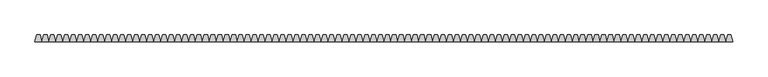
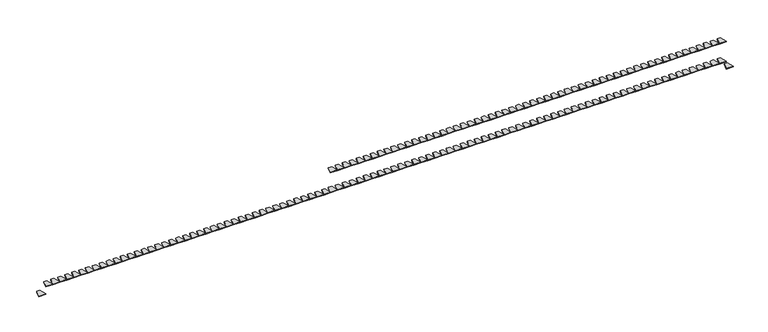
"""IFC4 building model written with IfcOpenShell, lengths in millimetres: duct fitting geometry, Частичная крышка шириной 40 мм - для кабель-канала DLP 65x195 - 2м - белый : 85мм."""

from ifc_helpers import new_model, si_unit, frame, origin, place, context, project, spatial, polyline, outline, extrude, source, transform, mapped, element, save


def duct_fitting_ad07ba2f(model_context):
    return source(origin(), model_context, "Body", "SweptSolid", [
        extrude(outline(polyline([(974.6410162, 20.0), (980.0, 0.0), (960.0, 0.0), (965.7349077, 20.0), (974.6410162, 20.0)])), frame((0.0, 0.0, -20.0), z_axis=(0.0, 0.0, 1.0), x_axis=(1.0, 0.0, 0.0)), (0.0, 0.0, 1.0), 2.0),
        extrude(outline(polyline([(954.6410162, 20.0), (960.0, 0.0), (940.0, 0.0), (945.7349077, 20.0), (954.6410162, 20.0)])), frame((0.0, 0.0, -20.0), z_axis=(0.0, 0.0, 1.0), x_axis=(1.0, 0.0, 0.0)), (0.0, 0.0, 1.0), 2.0),
        extrude(outline(polyline([(934.6410162, 20.0), (940.0, 0.0), (920.0, 0.0), (925.7349077, 20.0), (934.6410162, 20.0)])), frame((0.0, 0.0, -20.0), z_axis=(0.0, 0.0, 1.0), x_axis=(1.0, 0.0, 0.0)), (0.0, 0.0, 1.0), 2.0),
        extrude(outline(polyline([(914.6410162, 20.0), (920.0, 0.0), (900.0, 0.0), (905.7349077, 20.0), (914.6410162, 20.0)])), frame((0.0, 0.0, -20.0), z_axis=(0.0, 0.0, 1.0), x_axis=(1.0, 0.0, 0.0)), (0.0, 0.0, 1.0), 2.0),
        extrude(outline(polyline([(894.6410162, 20.0), (900.0, 0.0), (880.0, 0.0), (885.7349077, 20.0), (894.6410162, 20.0)])), frame((0.0, 0.0, -20.0), z_axis=(0.0, 0.0, 1.0), x_axis=(1.0, 0.0, 0.0)), (0.0, 0.0, 1.0), 2.0),
        extrude(outline(polyline([(874.6410162, 20.0), (880.0, 0.0), (860.0, 0.0), (865.7349077, 20.0), (874.6410162, 20.0)])), frame((0.0, 0.0, -20.0), z_axis=(0.0, 0.0, 1.0), x_axis=(1.0, 0.0, 0.0)), (0.0, 0.0, 1.0), 2.0),
        extrude(outline(polyline([(854.6410162, 20.0), (860.0, 0.0), (840.0, 0.0), (845.7349077, 20.0), (854.6410162, 20.0)])), frame((0.0, 0.0, -20.0), z_axis=(0.0, 0.0, 1.0), x_axis=(1.0, 0.0, 0.0)), (0.0, 0.0, 1.0), 2.0),
        extrude(outline(polyline([(834.6410162, 20.0), (840.0, 0.0), (820.0, 0.0), (825.7349077, 20.0), (834.6410162, 20.0)])), frame((0.0, 0.0, -20.0), z_axis=(0.0, 0.0, 1.0), x_axis=(1.0, 0.0, 0.0)), (0.0, 0.0, 1.0), 2.0),
        extrude(outline(polyline([(814.6410162, 20.0), (820.0, 0.0), (800.0, 0.0), (805.7349077, 20.0), (814.6410162, 20.0)])), frame((0.0, 0.0, -20.0), z_axis=(0.0, 0.0, 1.0), x_axis=(1.0, 0.0, 0.0)), (0.0, 0.0, 1.0), 2.0),
        extrude(outline(polyline([(794.6410162, 20.0), (800.0, 0.0), (780.0, 0.0), (785.7349077, 20.0), (794.6410162, 20.0)])), frame((0.0, 0.0, -20.0), z_axis=(0.0, 0.0, 1.0), x_axis=(1.0, 0.0, 0.0)), (0.0, 0.0, 1.0), 2.0),
        extrude(outline(polyline([(774.6410162, 20.0), (780.0, 0.0), (760.0, 0.0), (765.7349077, 20.0), (774.6410162, 20.0)])), frame((0.0, 0.0, -20.0), z_axis=(0.0, 0.0, 1.0), x_axis=(1.0, 0.0, 0.0)), (0.0, 0.0, 1.0), 2.0),
        extrude(outline(polyline([(754.6410162, 20.0), (760.0, 0.0), (740.0, 0.0), (745.7349077, 20.0), (754.6410162, 20.0)])), frame((0.0, 0.0, -20.0), z_axis=(0.0, 0.0, 1.0), x_axis=(1.0, 0.0, 0.0)), (0.0, 0.0, 1.0), 2.0),
        extrude(outline(polyline([(734.6410162, 20.0), (740.0, 0.0), (720.0, 0.0), (725.7349077, 20.0), (734.6410162, 20.0)])), frame((0.0, 0.0, -20.0), z_axis=(0.0, 0.0, 1.0), x_axis=(1.0, 0.0, 0.0)), (0.0, 0.0, 1.0), 2.0),
        extrude(outline(polyline([(714.6410162, 20.0), (720.0, 0.0), (700.0, 0.0), (705.7349077, 20.0), (714.6410162, 20.0)])), frame((0.0, 0.0, -20.0), z_axis=(0.0, 0.0, 1.0), x_axis=(1.0, 0.0, 0.0)), (0.0, 0.0, 1.0), 2.0),
        extrude(outline(polyline([(694.6410162, 20.0), (700.0, 0.0), (680.0, 0.0), (685.7349077, 20.0), (694.6410162, 20.0)])), frame((0.0, 0.0, -20.0), z_axis=(0.0, 0.0, 1.0), x_axis=(1.0, 0.0, 0.0)), (0.0, 0.0, 1.0), 2.0),
        extrude(outline(polyline([(674.6410162, 20.0), (680.0, 0.0), (660.0, 0.0), (665.7349077, 20.0), (674.6410162, 20.0)])), frame((0.0, 0.0, -20.0), z_axis=(0.0, 0.0, 1.0), x_axis=(1.0, 0.0, 0.0)), (0.0, 0.0, 1.0), 2.0),
        extrude(outline(polyline([(654.6410162, 20.0), (660.0, 0.0), (640.0, 0.0), (645.7349077, 20.0), (654.6410162, 20.0)])), frame((0.0, 0.0, -20.0), z_axis=(0.0, 0.0, 1.0), x_axis=(1.0, 0.0, 0.0)), (0.0, 0.0, 1.0), 2.0),
        extrude(outline(polyline([(634.6410162, 20.0), (640.0, 0.0), (620.0, 0.0), (625.7349077, 20.0), (634.6410162, 20.0)])), frame((0.0, 0.0, -20.0), z_axis=(0.0, 0.0, 1.0), x_axis=(1.0, 0.0, 0.0)), (0.0, 0.0, 1.0), 2.0),
        extrude(outline(polyline([(614.6410162, 20.0), (620.0, 0.0), (600.0, 0.0), (605.7349077, 20.0), (614.6410162, 20.0)])), frame((0.0, 0.0, -20.0), z_axis=(0.0, 0.0, 1.0), x_axis=(1.0, 0.0, 0.0)), (0.0, 0.0, 1.0), 2.0),
        extrude(outline(polyline([(594.6410162, 20.0), (600.0, 0.0), (580.0, 0.0), (585.7349077, 20.0), (594.6410162, 20.0)])), frame((0.0, 0.0, -20.0), z_axis=(0.0, 0.0, 1.0), x_axis=(1.0, 0.0, 0.0)), (0.0, 0.0, 1.0), 2.0),
        extrude(outline(polyline([(574.6410162, 20.0), (580.0, 0.0), (560.0, 0.0), (565.7349077, 20.0), (574.6410162, 20.0)])), frame((0.0, 0.0, -20.0), z_axis=(0.0, 0.0, 1.0), x_axis=(1.0, 0.0, 0.0)), (0.0, 0.0, 1.0), 2.0),
        extrude(outline(polyline([(554.6410162, 20.0), (560.0, 0.0), (540.0, 0.0), (545.7349077, 20.0), (554.6410162, 20.0)])), frame((0.0, 0.0, -20.0), z_axis=(0.0, 0.0, 1.0), x_axis=(1.0, 0.0, 0.0)), (0.0, 0.0, 1.0), 2.0),
        extrude(outline(polyline([(534.6410162, 20.0), (540.0, 0.0), (520.0, 0.0), (525.7349077, 20.0), (534.6410162, 20.0)])), frame((0.0, 0.0, -20.0), z_axis=(0.0, 0.0, 1.0), x_axis=(1.0, 0.0, 0.0)), (0.0, 0.0, 1.0), 2.0),
        extrude(outline(polyline([(514.6410162, 20.0), (520.0, 0.0), (500.0, 0.0), (505.7349077, 20.0), (514.6410162, 20.0)])), frame((0.0, 0.0, -20.0), z_axis=(0.0, 0.0, 1.0), x_axis=(1.0, 0.0, 0.0)), (0.0, 0.0, 1.0), 2.0),
        extrude(outline(polyline([(494.6410162, 20.0), (500.0, 0.0), (480.0, 0.0), (485.7349077, 20.0), (494.6410162, 20.0)])), frame((0.0, 0.0, -20.0), z_axis=(0.0, 0.0, 1.0), x_axis=(1.0, 0.0, 0.0)), (0.0, 0.0, 1.0), 2.0),
        extrude(outline(polyline([(474.6410162, 20.0), (480.0, 0.0), (460.0, 0.0), (465.7349077, 20.0), (474.6410162, 20.0)])), frame((0.0, 0.0, -20.0), z_axis=(0.0, 0.0, 1.0), x_axis=(1.0, 0.0, 0.0)), (0.0, 0.0, 1.0), 2.0),
        extrude(outline(polyline([(454.6410162, 20.0), (460.0, 0.0), (440.0, 0.0), (445.7349077, 20.0), (454.6410162, 20.0)])), frame((0.0, 0.0, -20.0), z_axis=(0.0, 0.0, 1.0), x_axis=(1.0, 0.0, 0.0)), (0.0, 0.0, 1.0), 2.0),
        extrude(outline(polyline([(434.6410162, 20.0), (440.0, 0.0), (420.0, 0.0), (425.7349077, 20.0), (434.6410162, 20.0)])), frame((0.0, 0.0, -20.0), z_axis=(0.0, 0.0, 1.0), x_axis=(1.0, 0.0, 0.0)), (0.0, 0.0, 1.0), 2.0),
        extrude(outline(polyline([(414.6410162, 20.0), (420.0, 0.0), (400.0, 0.0), (405.7349077, 20.0), (414.6410162, 20.0)])), frame((0.0, 0.0, -20.0), z_axis=(0.0, 0.0, 1.0), x_axis=(1.0, 0.0, 0.0)), (0.0, 0.0, 1.0), 2.0),
        extrude(outline(polyline([(394.6410162, 20.0), (400.0, 0.0), (380.0, 0.0), (385.7349077, 20.0), (394.6410162, 20.0)])), frame((0.0, 0.0, -20.0), z_axis=(0.0, 0.0, 1.0), x_axis=(1.0, 0.0, 0.0)), (0.0, 0.0, 1.0), 2.0),
        extrude(outline(polyline([(374.6410162, 20.0), (380.0, 0.0), (360.0, 0.0), (365.7349077, 20.0), (374.6410162, 20.0)])), frame((0.0, 0.0, -20.0), z_axis=(0.0, 0.0, 1.0), x_axis=(1.0, 0.0, 0.0)), (0.0, 0.0, 1.0), 2.0),
        extrude(outline(polyline([(354.6410162, 20.0), (360.0, 0.0), (340.0, 0.0), (345.7349077, 20.0), (354.6410162, 20.0)])), frame((0.0, 0.0, -20.0), z_axis=(0.0, 0.0, 1.0), x_axis=(1.0, 0.0, 0.0)), (0.0, 0.0, 1.0), 2.0),
        extrude(outline(polyline([(334.6410162, 20.0), (340.0, 0.0), (320.0, 0.0), (325.7349077, 20.0), (334.6410162, 20.0)])), frame((0.0, 0.0, -20.0), z_axis=(0.0, 0.0, 1.0), x_axis=(1.0, 0.0, 0.0)), (0.0, 0.0, 1.0), 2.0),
        extrude(outline(polyline([(314.6410162, 20.0), (320.0, 0.0), (300.0, 0.0), (305.7349077, 20.0), (314.6410162, 20.0)])), frame((0.0, 0.0, -20.0), z_axis=(0.0, 0.0, 1.0), x_axis=(1.0, 0.0, 0.0)), (0.0, 0.0, 1.0), 2.0),
        extrude(outline(polyline([(294.6410162, 20.0), (300.0, 0.0), (280.0, 0.0), (285.7349077, 20.0), (294.6410162, 20.0)])), frame((0.0, 0.0, -20.0), z_axis=(0.0, 0.0, 1.0), x_axis=(1.0, 0.0, 0.0)), (0.0, 0.0, 1.0), 2.0),
        extrude(outline(polyline([(274.6410162, 20.0), (280.0, 0.0), (260.0, 0.0), (265.7349077, 20.0), (274.6410162, 20.0)])), frame((0.0, 0.0, -20.0), z_axis=(0.0, 0.0, 1.0), x_axis=(1.0, 0.0, 0.0)), (0.0, 0.0, 1.0), 2.0),
        extrude(outline(polyline([(254.6410162, 20.0), (260.0, 0.0), (240.0, 0.0), (245.7349077, 20.0), (254.6410162, 20.0)])), frame((0.0, 0.0, -20.0), z_axis=(0.0, 0.0, 1.0), x_axis=(1.0, 0.0, 0.0)), (0.0, 0.0, 1.0), 2.0),
        extrude(outline(polyline([(234.6410162, 20.0), (240.0, 0.0), (220.0, 0.0), (225.7349077, 20.0), (234.6410162, 20.0)])), frame((0.0, 0.0, -20.0), z_axis=(0.0, 0.0, 1.0), x_axis=(1.0, 0.0, 0.0)), (0.0, 0.0, 1.0), 2.0),
        extrude(outline(polyline([(214.6410162, 20.0), (220.0, 0.0), (200.0, 0.0), (205.7349077, 20.0), (214.6410162, 20.0)])), frame((0.0, 0.0, -20.0), z_axis=(0.0, 0.0, 1.0), x_axis=(1.0, 0.0, 0.0)), (0.0, 0.0, 1.0), 2.0),
        extrude(outline(polyline([(194.6410162, 20.0), (200.0, 0.0), (180.0, 0.0), (185.7349077, 20.0), (194.6410162, 20.0)])), frame((0.0, 0.0, -20.0), z_axis=(0.0, 0.0, 1.0), x_axis=(1.0, 0.0, 0.0)), (0.0, 0.0, 1.0), 2.0),
        extrude(outline(polyline([(174.6410162, 20.0), (180.0, 0.0), (160.0, 0.0), (165.7349077, 20.0), (174.6410162, 20.0)])), frame((0.0, 0.0, -20.0), z_axis=(0.0, 0.0, 1.0), x_axis=(1.0, 0.0, 0.0)), (0.0, 0.0, 1.0), 2.0),
        extrude(outline(polyline([(154.6410162, 20.0), (160.0, 0.0), (140.0, 0.0), (145.7349077, 20.0), (154.6410162, 20.0)])), frame((0.0, 0.0, -20.0), z_axis=(0.0, 0.0, 1.0), x_axis=(1.0, 0.0, 0.0)), (0.0, 0.0, 1.0), 2.0),
        extrude(outline(polyline([(134.6410162, 20.0), (140.0, 0.0), (120.0, 0.0), (125.7349077, 20.0), (134.6410162, 20.0)])), frame((0.0, 0.0, -20.0), z_axis=(0.0, 0.0, 1.0), x_axis=(1.0, 0.0, 0.0)), (0.0, 0.0, 1.0), 2.0),
        extrude(outline(polyline([(114.6410162, 20.0), (120.0, 0.0), (100.0, 0.0), (105.7349077, 20.0), (114.6410162, 20.0)])), frame((0.0, 0.0, -20.0), z_axis=(0.0, 0.0, 1.0), x_axis=(1.0, 0.0, 0.0)), (0.0, 0.0, 1.0), 2.0),
        extrude(outline(polyline([(94.6410162, 20.0), (100.0, 0.0), (80.0, 0.0), (85.7349077, 20.0), (94.6410162, 20.0)])), frame((0.0, 0.0, -20.0), z_axis=(0.0, 0.0, 1.0), x_axis=(1.0, 0.0, 0.0)), (0.0, 0.0, 1.0), 2.0),
        extrude(outline(polyline([(74.6410162, 20.0), (80.0, 0.0), (60.0, 0.0), (65.7349077, 20.0), (74.6410162, 20.0)])), frame((0.0, 0.0, -20.0), z_axis=(0.0, 0.0, 1.0), x_axis=(1.0, 0.0, 0.0)), (0.0, 0.0, 1.0), 2.0),
        extrude(outline(polyline([(54.6410162, 20.0), (60.0, 0.0), (40.0, 0.0), (45.7349077, 20.0), (54.6410162, 20.0)])), frame((0.0, 0.0, -20.0), z_axis=(0.0, 0.0, 1.0), x_axis=(1.0, 0.0, 0.0)), (0.0, 0.0, 1.0), 2.0),
        extrude(outline(polyline([(34.6410162, 20.0), (40.0, 0.0), (20.0, 0.0), (25.7349077, 20.0), (34.6410162, 20.0)])), frame((0.0, 0.0, -20.0), z_axis=(0.0, 0.0, 1.0), x_axis=(1.0, 0.0, 0.0)), (0.0, 0.0, 1.0), 2.0),
        extrude(outline(polyline([(14.6410162, 20.0), (20.0, 0.0), (0.0, 0.0), (5.7349077, 20.0), (14.6410162, 20.0)])), frame((0.0, 0.0, -20.0), z_axis=(0.0, 0.0, 1.0), x_axis=(1.0, 0.0, 0.0)), (0.0, 0.0, 1.0), 2.0),
        extrude(outline(polyline([(-5.3589838, 20.0), (0.0, 0.0), (-20.0, 0.0), (-14.2650923, 20.0), (-5.3589838, 20.0)])), frame((0.0, 0.0, -20.0), z_axis=(0.0, 0.0, 1.0), x_axis=(1.0, 0.0, 0.0)), (0.0, 0.0, 1.0), 2.0),
        extrude(outline(polyline([(-25.3589838, 20.0), (-20.0, 0.0), (-40.0, 0.0), (-34.2650923, 20.0), (-25.3589838, 20.0)])), frame((0.0, 0.0, -20.0), z_axis=(0.0, 0.0, 1.0), x_axis=(1.0, 0.0, 0.0)), (0.0, 0.0, 1.0), 2.0),
        extrude(outline(polyline([(-45.3589838, 20.0), (-40.0, 0.0), (-60.0, 0.0), (-54.2650923, 20.0), (-45.3589838, 20.0)])), frame((0.0, 0.0, -20.0), z_axis=(0.0, 0.0, 1.0), x_axis=(1.0, 0.0, 0.0)), (0.0, 0.0, 1.0), 2.0),
        extrude(outline(polyline([(-65.3589838, 20.0), (-60.0, 0.0), (-80.0, 0.0), (-74.2650923, 20.0), (-65.3589838, 20.0)])), frame((0.0, 0.0, -20.0), z_axis=(0.0, 0.0, 1.0), x_axis=(1.0, 0.0, 0.0)), (0.0, 0.0, 1.0), 2.0),
        extrude(outline(polyline([(-85.3589838, 20.0), (-80.0, 0.0), (-100.0, 0.0), (-94.2650923, 20.0), (-85.3589838, 20.0)])), frame((0.0, 0.0, -20.0), z_axis=(0.0, 0.0, 1.0), x_axis=(1.0, 0.0, 0.0)), (0.0, 0.0, 1.0), 2.0),
        extrude(outline(polyline([(-105.3589838, 20.0), (-100.0, 0.0), (-120.0, 0.0), (-114.2650923, 20.0), (-105.3589838, 20.0)])), frame((0.0, 0.0, -20.0), z_axis=(0.0, 0.0, 1.0), x_axis=(1.0, 0.0, 0.0)), (0.0, 0.0, 1.0), 2.0),
        extrude(outline(polyline([(-125.3589838, 20.0), (-120.0, 0.0), (-140.0, 0.0), (-134.2650923, 20.0), (-125.3589838, 20.0)])), frame((0.0, 0.0, -20.0), z_axis=(0.0, 0.0, 1.0), x_axis=(1.0, 0.0, 0.0)), (0.0, 0.0, 1.0), 2.0),
        extrude(outline(polyline([(-145.3589838, 20.0), (-140.0, 0.0), (-160.0, 0.0), (-154.2650923, 20.0), (-145.3589838, 20.0)])), frame((0.0, 0.0, -20.0), z_axis=(0.0, 0.0, 1.0), x_axis=(1.0, 0.0, 0.0)), (0.0, 0.0, 1.0), 2.0),
        extrude(outline(polyline([(-165.3589838, 20.0), (-160.0, 0.0), (-180.0, 0.0), (-174.2650923, 20.0), (-165.3589838, 20.0)])), frame((0.0, 0.0, -20.0), z_axis=(0.0, 0.0, 1.0), x_axis=(1.0, 0.0, 0.0)), (0.0, 0.0, 1.0), 2.0),
        extrude(outline(polyline([(-185.3589838, 20.0), (-180.0, 0.0), (-200.0, 0.0), (-194.2650923, 20.0), (-185.3589838, 20.0)])), frame((0.0, 0.0, -20.0), z_axis=(0.0, 0.0, 1.0), x_axis=(1.0, 0.0, 0.0)), (0.0, 0.0, 1.0), 2.0),
        extrude(outline(polyline([(-205.3589838, 20.0), (-200.0, 0.0), (-220.0, 0.0), (-214.2650923, 20.0), (-205.3589838, 20.0)])), frame((0.0, 0.0, -20.0), z_axis=(0.0, 0.0, 1.0), x_axis=(1.0, 0.0, 0.0)), (0.0, 0.0, 1.0), 2.0),
        extrude(outline(polyline([(-225.3589838, 20.0), (-220.0, 0.0), (-240.0, 0.0), (-234.2650923, 20.0), (-225.3589838, 20.0)])), frame((0.0, 0.0, -20.0), z_axis=(0.0, 0.0, 1.0), x_axis=(1.0, 0.0, 0.0)), (0.0, 0.0, 1.0), 2.0),
        extrude(outline(polyline([(-245.3589838, 20.0), (-240.0, 0.0), (-260.0, 0.0), (-254.2650923, 20.0), (-245.3589838, 20.0)])), frame((0.0, 0.0, -20.0), z_axis=(0.0, 0.0, 1.0), x_axis=(1.0, 0.0, 0.0)), (0.0, 0.0, 1.0), 2.0),
        extrude(outline(polyline([(-265.3589838, 20.0), (-260.0, 0.0), (-280.0, 0.0), (-274.2650923, 20.0), (-265.3589838, 20.0)])), frame((0.0, 0.0, -20.0), z_axis=(0.0, 0.0, 1.0), x_axis=(1.0, 0.0, 0.0)), (0.0, 0.0, 1.0), 2.0),
        extrude(outline(polyline([(-285.3589838, 20.0), (-280.0, 0.0), (-300.0, 0.0), (-294.2650923, 20.0), (-285.3589838, 20.0)])), frame((0.0, 0.0, -20.0), z_axis=(0.0, 0.0, 1.0), x_axis=(1.0, 0.0, 0.0)), (0.0, 0.0, 1.0), 2.0),
        extrude(outline(polyline([(-305.3589838, 20.0), (-300.0, 0.0), (-320.0, 0.0), (-314.2650923, 20.0), (-305.3589838, 20.0)])), frame((0.0, 0.0, -20.0), z_axis=(0.0, 0.0, 1.0), x_axis=(1.0, 0.0, 0.0)), (0.0, 0.0, 1.0), 2.0),
        extrude(outline(polyline([(-325.3589838, 20.0), (-320.0, 0.0), (-340.0, 0.0), (-334.2650923, 20.0), (-325.3589838, 20.0)])), frame((0.0, 0.0, -20.0), z_axis=(0.0, 0.0, 1.0), x_axis=(1.0, 0.0, 0.0)), (0.0, 0.0, 1.0), 2.0),
        extrude(outline(polyline([(-345.3589838, 20.0), (-340.0, 0.0), (-360.0, 0.0), (-354.2650923, 20.0), (-345.3589838, 20.0)])), frame((0.0, 0.0, -20.0), z_axis=(0.0, 0.0, 1.0), x_axis=(1.0, 0.0, 0.0)), (0.0, 0.0, 1.0), 2.0),
        extrude(outline(polyline([(-365.3589838, 20.0), (-360.0, 0.0), (-380.0, 0.0), (-374.2650923, 20.0), (-365.3589838, 20.0)])), frame((0.0, 0.0, -20.0), z_axis=(0.0, 0.0, 1.0), x_axis=(1.0, 0.0, 0.0)), (0.0, 0.0, 1.0), 2.0),
        extrude(outline(polyline([(-385.3589838, 20.0), (-380.0, 0.0), (-400.0, 0.0), (-394.2650923, 20.0), (-385.3589838, 20.0)])), frame((0.0, 0.0, -20.0), z_axis=(0.0, 0.0, 1.0), x_axis=(1.0, 0.0, 0.0)), (0.0, 0.0, 1.0), 2.0),
        extrude(outline(polyline([(-405.3589838, 20.0), (-400.0, 0.0), (-420.0, 0.0), (-414.2650923, 20.0), (-405.3589838, 20.0)])), frame((0.0, 0.0, -20.0), z_axis=(0.0, 0.0, 1.0), x_axis=(1.0, 0.0, 0.0)), (0.0, 0.0, 1.0), 2.0),
        extrude(outline(polyline([(-425.3589838, 20.0), (-420.0, 0.0), (-440.0, 0.0), (-434.2650923, 20.0), (-425.3589838, 20.0)])), frame((0.0, 0.0, -20.0), z_axis=(0.0, 0.0, 1.0), x_axis=(1.0, 0.0, 0.0)), (0.0, 0.0, 1.0), 2.0),
        extrude(outline(polyline([(-445.3589838, 20.0), (-440.0, 0.0), (-460.0, 0.0), (-454.2650923, 20.0), (-445.3589838, 20.0)])), frame((0.0, 0.0, -20.0), z_axis=(0.0, 0.0, 1.0), x_axis=(1.0, 0.0, 0.0)), (0.0, 0.0, 1.0), 2.0),
        extrude(outline(polyline([(-465.3589838, 20.0), (-460.0, 0.0), (-480.0, 0.0), (-474.2650923, 20.0), (-465.3589838, 20.0)])), frame((0.0, 0.0, -20.0), z_axis=(0.0, 0.0, 1.0), x_axis=(1.0, 0.0, 0.0)), (0.0, 0.0, 1.0), 2.0),
        extrude(outline(polyline([(-485.3589838, 20.0), (-480.0, 0.0), (-500.0, 0.0), (-494.2650923, 20.0), (-485.3589838, 20.0)])), frame((0.0, 0.0, -20.0), z_axis=(0.0, 0.0, 1.0), x_axis=(1.0, 0.0, 0.0)), (0.0, 0.0, 1.0), 2.0),
        extrude(outline(polyline([(-505.3589838, 20.0), (-500.0, 0.0), (-520.0, 0.0), (-514.2650923, 20.0), (-505.3589838, 20.0)])), frame((0.0, 0.0, -20.0), z_axis=(0.0, 0.0, 1.0), x_axis=(1.0, 0.0, 0.0)), (0.0, 0.0, 1.0), 2.0),
        extrude(outline(polyline([(-525.3589838, 20.0), (-520.0, 0.0), (-540.0, 0.0), (-534.2650923, 20.0), (-525.3589838, 20.0)])), frame((0.0, 0.0, -20.0), z_axis=(0.0, 0.0, 1.0), x_axis=(1.0, 0.0, 0.0)), (0.0, 0.0, 1.0), 2.0),
        extrude(outline(polyline([(-545.3589838, 20.0), (-540.0, 0.0), (-560.0, 0.0), (-554.2650923, 20.0), (-545.3589838, 20.0)])), frame((0.0, 0.0, -20.0), z_axis=(0.0, 0.0, 1.0), x_axis=(1.0, 0.0, 0.0)), (0.0, 0.0, 1.0), 2.0),
        extrude(outline(polyline([(-565.3589838, 20.0), (-560.0, 0.0), (-580.0, 0.0), (-574.2650923, 20.0), (-565.3589838, 20.0)])), frame((0.0, 0.0, -20.0), z_axis=(0.0, 0.0, 1.0), x_axis=(1.0, 0.0, 0.0)), (0.0, 0.0, 1.0), 2.0),
        extrude(outline(polyline([(-585.3589838, 20.0), (-580.0, 0.0), (-600.0, 0.0), (-594.2650923, 20.0), (-585.3589838, 20.0)])), frame((0.0, 0.0, -20.0), z_axis=(0.0, 0.0, 1.0), x_axis=(1.0, 0.0, 0.0)), (0.0, 0.0, 1.0), 2.0),
        extrude(outline(polyline([(-605.3589838, 20.0), (-600.0, 0.0), (-620.0, 0.0), (-614.2650923, 20.0), (-605.3589838, 20.0)])), frame((0.0, 0.0, -20.0), z_axis=(0.0, 0.0, 1.0), x_axis=(1.0, 0.0, 0.0)), (0.0, 0.0, 1.0), 2.0),
        extrude(outline(polyline([(-625.3589838, 20.0), (-620.0, 0.0), (-640.0, 0.0), (-634.2650923, 20.0), (-625.3589838, 20.0)])), frame((0.0, 0.0, -20.0), z_axis=(0.0, 0.0, 1.0), x_axis=(1.0, 0.0, 0.0)), (0.0, 0.0, 1.0), 2.0),
        extrude(outline(polyline([(-645.3589838, 20.0), (-640.0, 0.0), (-660.0, 0.0), (-654.2650923, 20.0), (-645.3589838, 20.0)])), frame((0.0, 0.0, -20.0), z_axis=(0.0, 0.0, 1.0), x_axis=(1.0, 0.0, 0.0)), (0.0, 0.0, 1.0), 2.0),
        extrude(outline(polyline([(-665.3589838, 20.0), (-660.0, 0.0), (-680.0, 0.0), (-674.2650923, 20.0), (-665.3589838, 20.0)])), frame((0.0, 0.0, -20.0), z_axis=(0.0, 0.0, 1.0), x_axis=(1.0, 0.0, 0.0)), (0.0, 0.0, 1.0), 2.0),
        extrude(outline(polyline([(-685.3589838, 20.0), (-680.0, 0.0), (-700.0, 0.0), (-694.2650923, 20.0), (-685.3589838, 20.0)])), frame((0.0, 0.0, -20.0), z_axis=(0.0, 0.0, 1.0), x_axis=(1.0, 0.0, 0.0)), (0.0, 0.0, 1.0), 2.0),
        extrude(outline(polyline([(-705.3589838, 20.0), (-700.0, 0.0), (-720.0, 0.0), (-714.2650923, 20.0), (-705.3589838, 20.0)])), frame((0.0, 0.0, -20.0), z_axis=(0.0, 0.0, 1.0), x_axis=(1.0, 0.0, 0.0)), (0.0, 0.0, 1.0), 2.0),
        extrude(outline(polyline([(-725.3589838, 20.0), (-720.0, 0.0), (-740.0, 0.0), (-734.2650923, 20.0), (-725.3589838, 20.0)])), frame((0.0, 0.0, -20.0), z_axis=(0.0, 0.0, 1.0), x_axis=(1.0, 0.0, 0.0)), (0.0, 0.0, 1.0), 2.0),
        extrude(outline(polyline([(-745.3589838, 20.0), (-740.0, 0.0), (-760.0, 0.0), (-754.2650923, 20.0), (-745.3589838, 20.0)])), frame((0.0, 0.0, -20.0), z_axis=(0.0, 0.0, 1.0), x_axis=(1.0, 0.0, 0.0)), (0.0, 0.0, 1.0), 2.0),
        extrude(outline(polyline([(-765.3589838, 20.0), (-760.0, 0.0), (-780.0, 0.0), (-774.2650923, 20.0), (-765.3589838, 20.0)])), frame((0.0, 0.0, -20.0), z_axis=(0.0, 0.0, 1.0), x_axis=(1.0, 0.0, 0.0)), (0.0, 0.0, 1.0), 2.0),
        extrude(outline(polyline([(-785.3589838, 20.0), (-780.0, 0.0), (-800.0, 0.0), (-794.2650923, 20.0), (-785.3589838, 20.0)])), frame((0.0, 0.0, -20.0), z_axis=(0.0, 0.0, 1.0), x_axis=(1.0, 0.0, 0.0)), (0.0, 0.0, 1.0), 2.0),
        extrude(outline(polyline([(-805.3589838, 20.0), (-800.0, 0.0), (-820.0, 0.0), (-814.2650923, 20.0), (-805.3589838, 20.0)])), frame((0.0, 0.0, -20.0), z_axis=(0.0, 0.0, 1.0), x_axis=(1.0, 0.0, 0.0)), (0.0, 0.0, 1.0), 2.0),
        extrude(outline(polyline([(-825.3589838, 20.0), (-820.0, 0.0), (-840.0, 0.0), (-834.2650923, 20.0), (-825.3589838, 20.0)])), frame((0.0, 0.0, -20.0), z_axis=(0.0, 0.0, 1.0), x_axis=(1.0, 0.0, 0.0)), (0.0, 0.0, 1.0), 2.0),
        extrude(outline(polyline([(-845.3589838, 20.0), (-840.0, 0.0), (-860.0, 0.0), (-854.2650923, 20.0), (-845.3589838, 20.0)])), frame((0.0, 0.0, -20.0), z_axis=(0.0, 0.0, 1.0), x_axis=(1.0, 0.0, 0.0)), (0.0, 0.0, 1.0), 2.0),
        extrude(outline(polyline([(-865.3589838, 20.0), (-860.0, 0.0), (-880.0, 0.0), (-874.2650923, 20.0), (-865.3589838, 20.0)])), frame((0.0, 0.0, -20.0), z_axis=(0.0, 0.0, 1.0), x_axis=(1.0, 0.0, 0.0)), (0.0, 0.0, 1.0), 2.0),
        extrude(outline(polyline([(-885.3589838, 20.0), (-880.0, 0.0), (-900.0, 0.0), (-894.2650923, 20.0), (-885.3589838, 20.0)])), frame((0.0, 0.0, -20.0), z_axis=(0.0, 0.0, 1.0), x_axis=(1.0, 0.0, 0.0)), (0.0, 0.0, 1.0), 2.0),
        extrude(outline(polyline([(-905.3589838, 20.0), (-900.0, 0.0), (-920.0, 0.0), (-914.2650923, 20.0), (-905.3589838, 20.0)])), frame((0.0, 0.0, -20.0), z_axis=(0.0, 0.0, 1.0), x_axis=(1.0, 0.0, 0.0)), (0.0, 0.0, 1.0), 2.0),
        extrude(outline(polyline([(-925.3589838, 20.0), (-920.0, 0.0), (-940.0, 0.0), (-934.2650923, 20.0), (-925.3589838, 20.0)])), frame((0.0, 0.0, -20.0), z_axis=(0.0, 0.0, 1.0), x_axis=(1.0, 0.0, 0.0)), (0.0, 0.0, 1.0), 2.0),
        extrude(outline(polyline([(-945.3589838, 20.0), (-940.0, 0.0), (-960.0, 0.0), (-954.2650923, 20.0), (-945.3589838, 20.0)])), frame((0.0, 0.0, -20.0), z_axis=(0.0, 0.0, 1.0), x_axis=(1.0, 0.0, 0.0)), (0.0, 0.0, 1.0), 2.0),
        extrude(outline(polyline([(-965.3589838, 20.0), (-960.0, 0.0), (-980.0, 0.0), (-974.2650923, 20.0), (-965.3589838, 20.0)])), frame((0.0, 0.0, -20.0), z_axis=(0.0, 0.0, 1.0), x_axis=(1.0, 0.0, 0.0)), (0.0, 0.0, 1.0), 2.0),
        extrude(outline(polyline([(994.6410162, 20.0), (1000.0, 0.0), (980.0, 0.0), (985.7349077, 20.0), (994.6410162, 20.0)])), frame((0.0, 0.0, -42.5), z_axis=(0.0, 0.0, 1.0), x_axis=(1.0, 0.0, 0.0)), (0.0, 0.0, 1.0), 2.0),
        extrude(outline(polyline([(-985.3589838, 20.0), (-980.0, 0.0), (-1000.0, 0.0), (-994.2650923, 20.0), (-985.3589838, 20.0)])), frame((0.0, 0.0, -42.5), z_axis=(0.0, 0.0, 1.0), x_axis=(1.0, 0.0, 0.0)), (0.0, 0.0, 1.0), 2.0),
        extrude(outline(polyline([(974.6410162, 20.0), (980.0, 0.0), (960.0, 0.0), (965.7349077, 20.0), (974.6410162, 20.0)])), frame((0.0, 0.0, 40.5), z_axis=(0.0, 0.0, 1.0), x_axis=(1.0, 0.0, 0.0)), (0.0, 0.0, 1.0), 2.0),
        extrude(outline(polyline([(954.6410162, 20.0), (960.0, 0.0), (940.0, 0.0), (945.7349077, 20.0), (954.6410162, 20.0)])), frame((0.0, 0.0, 40.5), z_axis=(0.0, 0.0, 1.0), x_axis=(1.0, 0.0, 0.0)), (0.0, 0.0, 1.0), 2.0),
        extrude(outline(polyline([(934.6410162, 20.0), (940.0, 0.0), (920.0, 0.0), (925.7349077, 20.0), (934.6410162, 20.0)])), frame((0.0, 0.0, 40.5), z_axis=(0.0, 0.0, 1.0), x_axis=(1.0, 0.0, 0.0)), (0.0, 0.0, 1.0), 2.0),
        extrude(outline(polyline([(914.6410162, 20.0), (920.0, 0.0), (900.0, 0.0), (905.7349077, 20.0), (914.6410162, 20.0)])), frame((0.0, 0.0, 40.5), z_axis=(0.0, 0.0, 1.0), x_axis=(1.0, 0.0, 0.0)), (0.0, 0.0, 1.0), 2.0),
        extrude(outline(polyline([(894.6410162, 20.0), (900.0, 0.0), (880.0, 0.0), (885.7349077, 20.0), (894.6410162, 20.0)])), frame((0.0, 0.0, 40.5), z_axis=(0.0, 0.0, 1.0), x_axis=(1.0, 0.0, 0.0)), (0.0, 0.0, 1.0), 2.0),
        extrude(outline(polyline([(874.6410162, 20.0), (880.0, 0.0), (860.0, 0.0), (865.7349077, 20.0), (874.6410162, 20.0)])), frame((0.0, 0.0, 40.5), z_axis=(0.0, 0.0, 1.0), x_axis=(1.0, 0.0, 0.0)), (0.0, 0.0, 1.0), 2.0),
        extrude(outline(polyline([(854.6410162, 20.0), (860.0, 0.0), (840.0, 0.0), (845.7349077, 20.0), (854.6410162, 20.0)])), frame((0.0, 0.0, 40.5), z_axis=(0.0, 0.0, 1.0), x_axis=(1.0, 0.0, 0.0)), (0.0, 0.0, 1.0), 2.0),
        extrude(outline(polyline([(834.6410162, 20.0), (840.0, 0.0), (820.0, 0.0), (825.7349077, 20.0), (834.6410162, 20.0)])), frame((0.0, 0.0, 40.5), z_axis=(0.0, 0.0, 1.0), x_axis=(1.0, 0.0, 0.0)), (0.0, 0.0, 1.0), 2.0),
        extrude(outline(polyline([(814.6410162, 20.0), (820.0, 0.0), (800.0, 0.0), (805.7349077, 20.0), (814.6410162, 20.0)])), frame((0.0, 0.0, 40.5), z_axis=(0.0, 0.0, 1.0), x_axis=(1.0, 0.0, 0.0)), (0.0, 0.0, 1.0), 2.0),
        extrude(outline(polyline([(794.6410162, 20.0), (800.0, 0.0), (780.0, 0.0), (785.7349077, 20.0), (794.6410162, 20.0)])), frame((0.0, 0.0, 40.5), z_axis=(0.0, 0.0, 1.0), x_axis=(1.0, 0.0, 0.0)), (0.0, 0.0, 1.0), 2.0),
        extrude(outline(polyline([(774.6410162, 20.0), (780.0, 0.0), (760.0, 0.0), (765.7349077, 20.0), (774.6410162, 20.0)])), frame((0.0, 0.0, 40.5), z_axis=(0.0, 0.0, 1.0), x_axis=(1.0, 0.0, 0.0)), (0.0, 0.0, 1.0), 2.0),
        extrude(outline(polyline([(754.6410162, 20.0), (760.0, 0.0), (740.0, 0.0), (745.7349077, 20.0), (754.6410162, 20.0)])), frame((0.0, 0.0, 40.5), z_axis=(0.0, 0.0, 1.0), x_axis=(1.0, 0.0, 0.0)), (0.0, 0.0, 1.0), 2.0),
        extrude(outline(polyline([(734.6410162, 20.0), (740.0, 0.0), (720.0, 0.0), (725.7349077, 20.0), (734.6410162, 20.0)])), frame((0.0, 0.0, 40.5), z_axis=(0.0, 0.0, 1.0), x_axis=(1.0, 0.0, 0.0)), (0.0, 0.0, 1.0), 2.0),
        extrude(outline(polyline([(714.6410162, 20.0), (720.0, 0.0), (700.0, 0.0), (705.7349077, 20.0), (714.6410162, 20.0)])), frame((0.0, 0.0, 40.5), z_axis=(0.0, 0.0, 1.0), x_axis=(1.0, 0.0, 0.0)), (0.0, 0.0, 1.0), 2.0),
        extrude(outline(polyline([(694.6410162, 20.0), (700.0, 0.0), (680.0, 0.0), (685.7349077, 20.0), (694.6410162, 20.0)])), frame((0.0, 0.0, 40.5), z_axis=(0.0, 0.0, 1.0), x_axis=(1.0, 0.0, 0.0)), (0.0, 0.0, 1.0), 2.0),
        extrude(outline(polyline([(674.6410162, 20.0), (680.0, 0.0), (660.0, 0.0), (665.7349077, 20.0), (674.6410162, 20.0)])), frame((0.0, 0.0, 40.5), z_axis=(0.0, 0.0, 1.0), x_axis=(1.0, 0.0, 0.0)), (0.0, 0.0, 1.0), 2.0),
        extrude(outline(polyline([(654.6410162, 20.0), (660.0, 0.0), (640.0, 0.0), (645.7349077, 20.0), (654.6410162, 20.0)])), frame((0.0, 0.0, 40.5), z_axis=(0.0, 0.0, 1.0), x_axis=(1.0, 0.0, 0.0)), (0.0, 0.0, 1.0), 2.0),
        extrude(outline(polyline([(634.6410162, 20.0), (640.0, 0.0), (620.0, 0.0), (625.7349077, 20.0), (634.6410162, 20.0)])), frame((0.0, 0.0, 40.5), z_axis=(0.0, 0.0, 1.0), x_axis=(1.0, 0.0, 0.0)), (0.0, 0.0, 1.0), 2.0),
        extrude(outline(polyline([(614.6410162, 20.0), (620.0, 0.0), (600.0, 0.0), (605.7349077, 20.0), (614.6410162, 20.0)])), frame((0.0, 0.0, 40.5), z_axis=(0.0, 0.0, 1.0), x_axis=(1.0, 0.0, 0.0)), (0.0, 0.0, 1.0), 2.0),
        extrude(outline(polyline([(594.6410162, 20.0), (600.0, 0.0), (580.0, 0.0), (585.7349077, 20.0), (594.6410162, 20.0)])), frame((0.0, 0.0, 40.5), z_axis=(0.0, 0.0, 1.0), x_axis=(1.0, 0.0, 0.0)), (0.0, 0.0, 1.0), 2.0),
        extrude(outline(polyline([(574.6410162, 20.0), (580.0, 0.0), (560.0, 0.0), (565.7349077, 20.0), (574.6410162, 20.0)])), frame((0.0, 0.0, 40.5), z_axis=(0.0, 0.0, 1.0), x_axis=(1.0, 0.0, 0.0)), (0.0, 0.0, 1.0), 2.0),
        extrude(outline(polyline([(554.6410162, 20.0), (560.0, 0.0), (540.0, 0.0), (545.7349077, 20.0), (554.6410162, 20.0)])), frame((0.0, 0.0, 40.5), z_axis=(0.0, 0.0, 1.0), x_axis=(1.0, 0.0, 0.0)), (0.0, 0.0, 1.0), 2.0),
        extrude(outline(polyline([(534.6410162, 20.0), (540.0, 0.0), (520.0, 0.0), (525.7349077, 20.0), (534.6410162, 20.0)])), frame((0.0, 0.0, 40.5), z_axis=(0.0, 0.0, 1.0), x_axis=(1.0, 0.0, 0.0)), (0.0, 0.0, 1.0), 2.0),
        extrude(outline(polyline([(514.6410162, 20.0), (520.0, 0.0), (500.0, 0.0), (505.7349077, 20.0), (514.6410162, 20.0)])), frame((0.0, 0.0, 40.5), z_axis=(0.0, 0.0, 1.0), x_axis=(1.0, 0.0, 0.0)), (0.0, 0.0, 1.0), 2.0),
        extrude(outline(polyline([(494.6410162, 20.0), (500.0, 0.0), (480.0, 0.0), (485.7349077, 20.0), (494.6410162, 20.0)])), frame((0.0, 0.0, 40.5), z_axis=(0.0, 0.0, 1.0), x_axis=(1.0, 0.0, 0.0)), (0.0, 0.0, 1.0), 2.0),
        extrude(outline(polyline([(474.6410162, 20.0), (480.0, 0.0), (460.0, 0.0), (465.7349077, 20.0), (474.6410162, 20.0)])), frame((0.0, 0.0, 40.5), z_axis=(0.0, 0.0, 1.0), x_axis=(1.0, 0.0, 0.0)), (0.0, 0.0, 1.0), 2.0),
        extrude(outline(polyline([(454.6410162, 20.0), (460.0, 0.0), (440.0, 0.0), (445.7349077, 20.0), (454.6410162, 20.0)])), frame((0.0, 0.0, 40.5), z_axis=(0.0, 0.0, 1.0), x_axis=(1.0, 0.0, 0.0)), (0.0, 0.0, 1.0), 2.0),
        extrude(outline(polyline([(434.6410162, 20.0), (440.0, 0.0), (420.0, 0.0), (425.7349077, 20.0), (434.6410162, 20.0)])), frame((0.0, 0.0, 40.5), z_axis=(0.0, 0.0, 1.0), x_axis=(1.0, 0.0, 0.0)), (0.0, 0.0, 1.0), 2.0),
        extrude(outline(polyline([(414.6410162, 20.0), (420.0, 0.0), (400.0, 0.0), (405.7349077, 20.0), (414.6410162, 20.0)])), frame((0.0, 0.0, 40.5), z_axis=(0.0, 0.0, 1.0), x_axis=(1.0, 0.0, 0.0)), (0.0, 0.0, 1.0), 2.0),
        extrude(outline(polyline([(394.6410162, 20.0), (400.0, 0.0), (380.0, 0.0), (385.7349077, 20.0), (394.6410162, 20.0)])), frame((0.0, 0.0, 40.5), z_axis=(0.0, 0.0, 1.0), x_axis=(1.0, 0.0, 0.0)), (0.0, 0.0, 1.0), 2.0),
        extrude(outline(polyline([(374.6410162, 20.0), (380.0, 0.0), (360.0, 0.0), (365.7349077, 20.0), (374.6410162, 20.0)])), frame((0.0, 0.0, 40.5), z_axis=(0.0, 0.0, 1.0), x_axis=(1.0, 0.0, 0.0)), (0.0, 0.0, 1.0), 2.0),
        extrude(outline(polyline([(354.6410162, 20.0), (360.0, 0.0), (340.0, 0.0), (345.7349077, 20.0), (354.6410162, 20.0)])), frame((0.0, 0.0, 40.5), z_axis=(0.0, 0.0, 1.0), x_axis=(1.0, 0.0, 0.0)), (0.0, 0.0, 1.0), 2.0),
        extrude(outline(polyline([(334.6410162, 20.0), (340.0, 0.0), (320.0, 0.0), (325.7349077, 20.0), (334.6410162, 20.0)])), frame((0.0, 0.0, 40.5), z_axis=(0.0, 0.0, 1.0), x_axis=(1.0, 0.0, 0.0)), (0.0, 0.0, 1.0), 2.0),
        extrude(outline(polyline([(314.6410162, 20.0), (320.0, 0.0), (300.0, 0.0), (305.7349077, 20.0), (314.6410162, 20.0)])), frame((0.0, 0.0, 40.5), z_axis=(0.0, 0.0, 1.0), x_axis=(1.0, 0.0, 0.0)), (0.0, 0.0, 1.0), 2.0),
        extrude(outline(polyline([(294.6410162, 20.0), (300.0, 0.0), (280.0, 0.0), (285.7349077, 20.0), (294.6410162, 20.0)])), frame((0.0, 0.0, 40.5), z_axis=(0.0, 0.0, 1.0), x_axis=(1.0, 0.0, 0.0)), (0.0, 0.0, 1.0), 2.0),
        extrude(outline(polyline([(274.6410162, 20.0), (280.0, 0.0), (260.0, 0.0), (265.7349077, 20.0), (274.6410162, 20.0)])), frame((0.0, 0.0, 40.5), z_axis=(0.0, 0.0, 1.0), x_axis=(1.0, 0.0, 0.0)), (0.0, 0.0, 1.0), 2.0),
        extrude(outline(polyline([(254.6410162, 20.0), (260.0, 0.0), (240.0, 0.0), (245.7349077, 20.0), (254.6410162, 20.0)])), frame((0.0, 0.0, 40.5), z_axis=(0.0, 0.0, 1.0), x_axis=(1.0, 0.0, 0.0)), (0.0, 0.0, 1.0), 2.0),
        extrude(outline(polyline([(234.6410162, 20.0), (240.0, 0.0), (220.0, 0.0), (225.7349077, 20.0), (234.6410162, 20.0)])), frame((0.0, 0.0, 40.5), z_axis=(0.0, 0.0, 1.0), x_axis=(1.0, 0.0, 0.0)), (0.0, 0.0, 1.0), 2.0),
        extrude(outline(polyline([(214.6410162, 20.0), (220.0, 0.0), (200.0, 0.0), (205.7349077, 20.0), (214.6410162, 20.0)])), frame((0.0, 0.0, 40.5), z_axis=(0.0, 0.0, 1.0), x_axis=(1.0, 0.0, 0.0)), (0.0, 0.0, 1.0), 2.0),
        extrude(outline(polyline([(194.6410162, 20.0), (200.0, 0.0), (180.0, 0.0), (185.7349077, 20.0), (194.6410162, 20.0)])), frame((0.0, 0.0, 40.5), z_axis=(0.0, 0.0, 1.0), x_axis=(1.0, 0.0, 0.0)), (0.0, 0.0, 1.0), 2.0),
        extrude(outline(polyline([(174.6410162, 20.0), (180.0, 0.0), (160.0, 0.0), (165.7349077, 20.0), (174.6410162, 20.0)])), frame((0.0, 0.0, 40.5), z_axis=(0.0, 0.0, 1.0), x_axis=(1.0, 0.0, 0.0)), (0.0, 0.0, 1.0), 2.0),
        extrude(outline(polyline([(154.6410162, 20.0), (160.0, 0.0), (140.0, 0.0), (145.7349077, 20.0), (154.6410162, 20.0)])), frame((0.0, 0.0, 40.5), z_axis=(0.0, 0.0, 1.0), x_axis=(1.0, 0.0, 0.0)), (0.0, 0.0, 1.0), 2.0),
        extrude(outline(polyline([(134.6410162, 20.0), (140.0, 0.0), (120.0, 0.0), (125.7349077, 20.0), (134.6410162, 20.0)])), frame((0.0, 0.0, 40.5), z_axis=(0.0, 0.0, 1.0), x_axis=(1.0, 0.0, 0.0)), (0.0, 0.0, 1.0), 2.0),
        extrude(outline(polyline([(114.6410162, 20.0), (120.0, 0.0), (100.0, 0.0), (105.7349077, 20.0), (114.6410162, 20.0)])), frame((0.0, 0.0, 40.5), z_axis=(0.0, 0.0, 1.0), x_axis=(1.0, 0.0, 0.0)), (0.0, 0.0, 1.0), 2.0),
        extrude(outline(polyline([(94.6410162, 20.0), (100.0, 0.0), (80.0, 0.0), (85.7349077, 20.0), (94.6410162, 20.0)])), frame((0.0, 0.0, 40.5), z_axis=(0.0, 0.0, 1.0), x_axis=(1.0, 0.0, 0.0)), (0.0, 0.0, 1.0), 2.0),
        extrude(outline(polyline([(74.6410162, 20.0), (80.0, 0.0), (60.0, 0.0), (65.7349077, 20.0), (74.6410162, 20.0)])), frame((0.0, 0.0, 40.5), z_axis=(0.0, 0.0, 1.0), x_axis=(1.0, 0.0, 0.0)), (0.0, 0.0, 1.0), 2.0),
        extrude(outline(polyline([(54.6410162, 20.0), (60.0, 0.0), (40.0, 0.0), (45.7349077, 20.0), (54.6410162, 20.0)])), frame((0.0, 0.0, 40.5), z_axis=(0.0, 0.0, 1.0), x_axis=(1.0, 0.0, 0.0)), (0.0, 0.0, 1.0), 2.0),
        extrude(outline(polyline([(34.6410162, 20.0), (40.0, 0.0), (20.0, 0.0), (25.7349077, 20.0), (34.6410162, 20.0)])), frame((0.0, 0.0, 40.5), z_axis=(0.0, 0.0, 1.0), x_axis=(1.0, 0.0, 0.0)), (0.0, 0.0, 1.0), 2.0),
        extrude(outline(polyline([(14.6410162, 20.0), (20.0, 0.0), (0.0, 0.0), (5.7349077, 20.0), (14.6410162, 20.0)])), frame((0.0, 0.0, 40.5), z_axis=(0.0, 0.0, 1.0), x_axis=(1.0, 0.0, 0.0)), (0.0, 0.0, 1.0), 2.0),
        extrude(outline(polyline([(-5.3589838, 20.0), (0.0, 0.0), (-20.0, 0.0), (-14.2650923, 20.0), (-5.3589838, 20.0)])), frame((0.0, 0.0, 40.5), z_axis=(0.0, 0.0, 1.0), x_axis=(1.0, 0.0, 0.0)), (0.0, 0.0, 1.0), 2.0),
        extrude(outline(polyline([(-25.3589838, 20.0), (-20.0, 0.0), (-40.0, 0.0), (-34.2650923, 20.0), (-25.3589838, 20.0)])), frame((0.0, 0.0, 40.5), z_axis=(0.0, 0.0, 1.0), x_axis=(1.0, 0.0, 0.0)), (0.0, 0.0, 1.0), 2.0),
        extrude(outline(polyline([(-45.3589838, 20.0), (-40.0, 0.0), (-60.0, 0.0), (-54.2650923, 20.0), (-45.3589838, 20.0)])), frame((0.0, 0.0, 40.5), z_axis=(0.0, 0.0, 1.0), x_axis=(1.0, 0.0, 0.0)), (0.0, 0.0, 1.0), 2.0),
        extrude(outline(polyline([(-65.3589838, 20.0), (-60.0, 0.0), (-80.0, 0.0), (-74.2650923, 20.0), (-65.3589838, 20.0)])), frame((0.0, 0.0, 40.5), z_axis=(0.0, 0.0, 1.0), x_axis=(1.0, 0.0, 0.0)), (0.0, 0.0, 1.0), 2.0),
        extrude(outline(polyline([(-85.3589838, 20.0), (-80.0, 0.0), (-100.0, 0.0), (-94.2650923, 20.0), (-85.3589838, 20.0)])), frame((0.0, 0.0, 40.5), z_axis=(0.0, 0.0, 1.0), x_axis=(1.0, 0.0, 0.0)), (0.0, 0.0, 1.0), 2.0),
        extrude(outline(polyline([(-105.3589838, 20.0), (-100.0, 0.0), (-120.0, 0.0), (-114.2650923, 20.0), (-105.3589838, 20.0)])), frame((0.0, 0.0, 40.5), z_axis=(0.0, 0.0, 1.0), x_axis=(1.0, 0.0, 0.0)), (0.0, 0.0, 1.0), 2.0),
        extrude(outline(polyline([(-125.3589838, 20.0), (-120.0, 0.0), (-140.0, 0.0), (-134.2650923, 20.0), (-125.3589838, 20.0)])), frame((0.0, 0.0, 40.5), z_axis=(0.0, 0.0, 1.0), x_axis=(1.0, 0.0, 0.0)), (0.0, 0.0, 1.0), 2.0),
        extrude(outline(polyline([(-145.3589838, 20.0), (-140.0, 0.0), (-160.0, 0.0), (-154.2650923, 20.0), (-145.3589838, 20.0)])), frame((0.0, 0.0, 40.5), z_axis=(0.0, 0.0, 1.0), x_axis=(1.0, 0.0, 0.0)), (0.0, 0.0, 1.0), 2.0),
    ])


if __name__ == "__main__":
    model = new_model("IFC4")
    model_context = context("Model", 3, world=origin())
    ifc_project = project(units=[si_unit("LENGTHUNIT", "METRE", prefix="MILLI")], contexts=[model_context])
    site = spatial("IfcSite", under=ifc_project)
    building = spatial("IfcBuilding", under=site)
    placement = place(None, origin())
    duct_fitting_shape = duct_fitting_ad07ba2f(model_context)
    element("IfcDuctFitting", 1, ObjectType="Частичная крышка шириной 40 мм - для кабель-канала DLP 65x195 - 2м - белый : 85мм", at=placement, inside=building, context=model_context, shape_type="MappedRepresentation", body=[
        mapped(duct_fitting_shape, transform((0.0, 0.0, 0.0), x_axis=(1.0, 0.0, 0.0), y_axis=(0.0, 1.0, 0.0), z_axis=(0.0, 0.0, 1.0))),
    ])
    save(model, "model.ifc")
